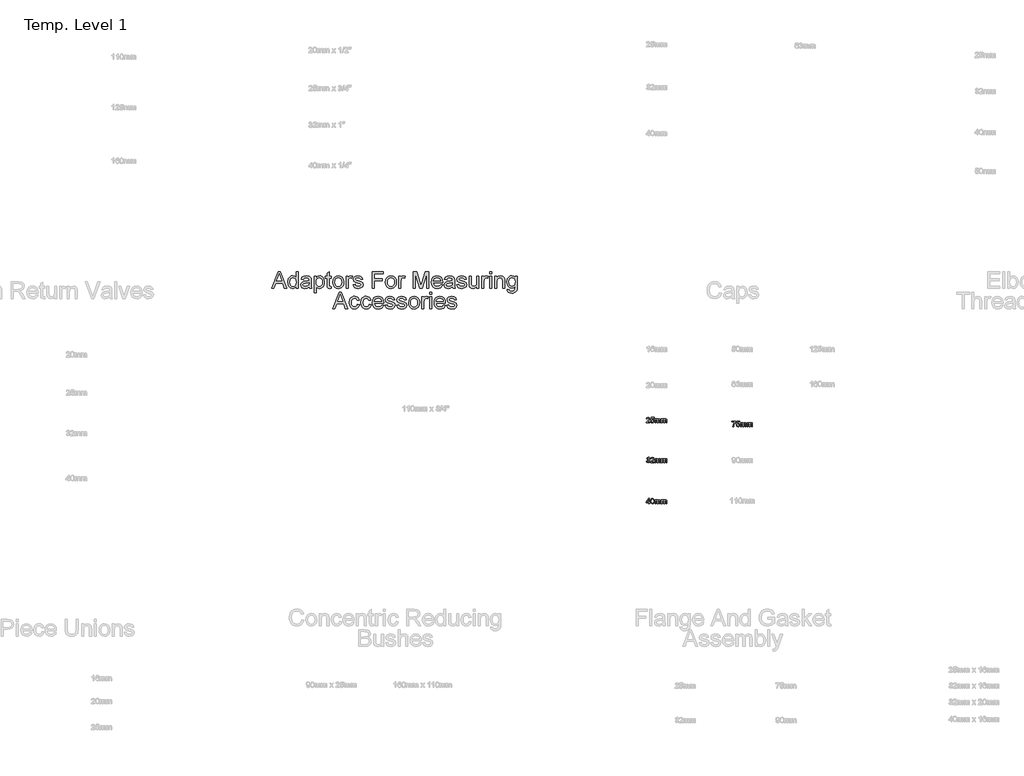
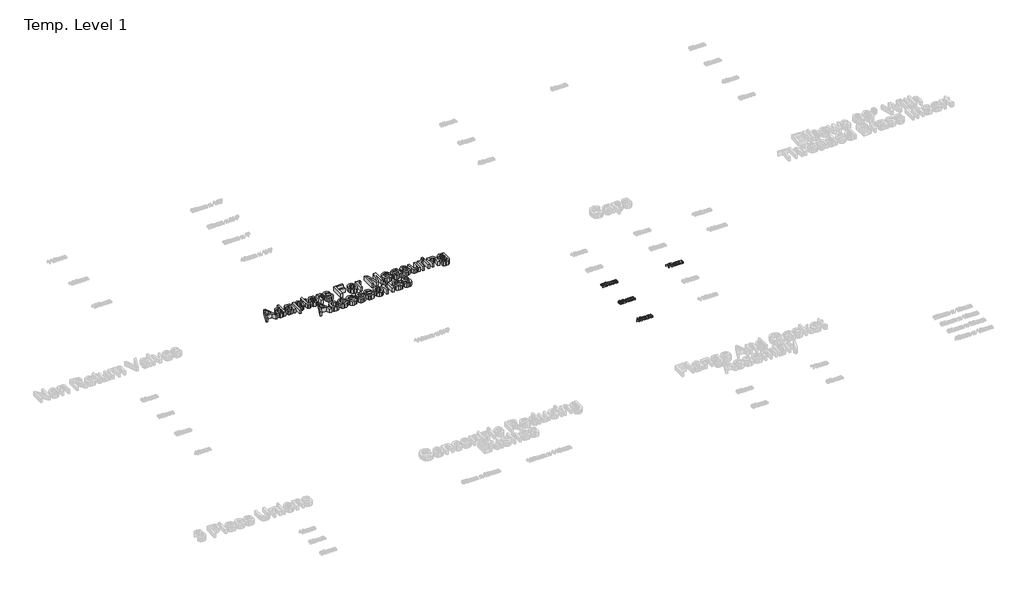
# One storey, part 39 of 62: 5 proxies.
"""IFC4 building model written with IfcOpenShell, lengths in millimetres."""

from ifc_helpers import new_model, si_unit, origin, origin_with_axes, place, context, project, spatial, polyline, outline, extrude, element, save

model = new_model("IFC4")

# Units and contexts
model_context = context("Model", 3, world=origin())
ifc_project = project(units=[si_unit("LENGTHUNIT", "METRE", prefix="MILLI")], contexts=[model_context])

# Site, building, storey
site = spatial("IfcSite", under=ifc_project)
building = spatial("IfcBuilding", under=site)
storey = spatial("IfcBuildingStorey", under=building, Name="Temp. Level 1", Elevation=0.0)

# Proxies
placement = place(None, origin())
element("IfcBuildingElementProxy", 1, Name="150mm Arial", ObjectType="150mm Arial", at=placement, inside=storey, context=model_context, shape_type="SweptSolid", body=[
    extrude(outline(polyline([(17320.8411942, -979.0446709), (17379.7955212, -831.3523632), (17395.516675, -831.3523632), (17454.4710019, -979.0446709), (17434.9637904, -979.0446709), (17418.0527327, -932.8908247), (17357.2234058, -932.8908247), (17340.3484058, -979.0446709), (17320.8411942, -979.0446709)]), holes=[polyline([(17364.0022519, -914.4292862), (17411.3099442, -914.4292862), (17398.0046558, -878.1191901), (17387.6560981, -849.8139016), (17378.4613865, -874.9461132), (17364.0022519, -914.4292862)])]), origin_with_axes(), (0.0, 0.0, 1.0), 50.0),
    extrude(outline(polyline([(17538.8099442, -979.0446709), (17538.8099442, -961.6288055), (17526.595401, -976.4214737), (17509.7113865, -981.3523632), (17497.7762904, -979.5675074), (17486.8508096, -974.2129401), (17477.6020115, -965.6627598), (17470.6969635, -954.2910651), (17466.3970837, -940.5575915), (17464.9637904, -924.9220747), (17470.2462423, -895.5350555), (17476.8448, -883.8794064), (17486.0755692, -875.3066901), (17497.2399322, -870.0332526), (17509.6392712, -868.2754401), (17526.6585019, -873.3054882), (17538.8099442, -886.3764016), (17538.8099442, -831.3523632), (17557.2714827, -831.3523632), (17557.2714827, -979.0446709), (17538.8099442, -979.0446709)]), holes=[polyline([(17483.4253288, -924.8499593), (17485.5076606, -941.5491781), (17491.7546558, -953.4256805), (17500.8321798, -960.5245387), (17511.4060981, -962.8908247), (17521.9755091, -960.6327117), (17530.8231654, -953.8583728), (17536.8132495, -942.441606), (17538.8099442, -926.2562093), (17536.7771918, -908.5608968), (17530.6789346, -896.292267), (17521.6059178, -889.1258007), (17510.6488865, -886.7369786), (17499.9667952, -889.0311492), (17491.2137904, -895.9136612), (17485.3724442, -907.7360771), (17483.4253288, -924.8499593)])]), origin_with_axes(), (0.0, 0.0, 1.0), 50.0),
    extrude(outline(polyline([(17654.1945596, -965.198517), (17636.2919154, -977.7105362), (17616.5142712, -981.3523632), (17601.0860861, -979.1618584), (17589.7053769, -972.5903439), (17582.6876486, -962.6113776), (17580.3484058, -950.198517), (17583.8820596, -935.5951516), (17593.1669154, -924.9941901), (17606.0935981, -918.9364978), (17622.0671558, -916.1600555), (17654.0863865, -909.8139016), (17654.1945596, -905.7033247), (17652.923526, -897.464142), (17649.110425, -892.073517), (17640.5827808, -888.0711132), (17628.7017712, -886.7369786), (17610.0238865, -890.2886612), (17601.1176365, -902.8908247), (17582.6560981, -900.5831324), (17590.6428769, -882.5542862), (17606.7246077, -871.9893824), (17631.0815788, -868.2754401), (17653.4553769, -871.5566901), (17666.0935981, -879.7958728), (17671.7546558, -892.3259209), (17672.6560981, -908.479767), (17672.6560981, -931.448517), (17673.5935981, -963.5218343), (17677.2714827, -979.0446709), (17658.8099442, -979.0446709), (17654.1945596, -965.198517)]), holes=[polyline([(17654.1945596, -928.2754401), (17624.4109058, -933.9364978), (17608.5274923, -936.9292862), (17601.3339827, -941.7970747), (17598.8099442, -948.9004401), (17604.3087423, -958.8884209), (17620.4445596, -962.8908247), (17639.1224442, -958.4737574), (17651.1657135, -947.7826516), (17654.0863865, -933.5038055), (17654.1945596, -928.2754401)])]), origin_with_axes(), (0.0, 0.0, 1.0), 50.0),
    extrude(outline(polyline([(17698.0407135, -1020.5831324), (17698.0407135, -870.5831324), (17716.5022519, -870.5831324), (17716.5022519, -888.6840939), (17729.266675, -873.3776036), (17746.5022519, -868.2754401), (17758.9872279, -870.0602959), (17769.9036942, -875.4148632), (17778.7919154, -884.0146228), (17785.1921558, -895.5350555), (17790.3484058, -923.9845747), (17788.8925764, -939.7733367), (17784.5250885, -953.8944305), (17777.3856654, -965.6312093), (17767.6140308, -974.2670266), (17756.2333216, -979.581029), (17744.266675, -981.3523632), (17728.2029731, -976.6107766), (17716.5022519, -964.6215939), (17716.5022519, -1020.5831324), (17698.0407135, -1020.5831324)]), holes=[polyline([(17716.5022519, -925.6792862), (17718.4989466, -942.229767), (17724.4890308, -953.8042862), (17733.3276726, -960.6191901), (17743.8700404, -962.8908247), (17754.5836822, -960.5380603), (17763.6476846, -953.479767), (17769.8270716, -941.4815699), (17771.8868673, -924.3090939), (17769.876651, -907.8487574), (17763.8460019, -896.1119786), (17755.0208817, -889.0807286), (17744.6272519, -886.7369786), (17734.1930572, -889.2294665), (17725.0298962, -896.7069305), (17718.634163, -908.9349954), (17716.5022519, -925.6792862)])]), origin_with_axes(), (0.0, 0.0, 1.0), 50.0),
    extrude(outline(polyline([(17850.3484058, -963.6480362), (17852.6560981, -979.5855362), (17838.8460019, -981.3523632), (17823.3772519, -978.2874593), (17815.6609058, -970.2465939), (17813.4253288, -949.2970747), (17813.4253288, -889.0446709), (17799.579175, -889.0446709), (17799.579175, -870.5831324), (17813.4253288, -870.5831324), (17813.4253288, -844.2249593), (17831.8868673, -833.3715939), (17831.8868673, -870.5831324), (17850.3484058, -870.5831324), (17850.3484058, -889.0446709), (17831.8868673, -889.0446709), (17831.8868673, -948.7562093), (17832.860425, -958.2754401), (17836.0154731, -961.6468343), (17842.3075404, -962.8908247), (17850.3484058, -963.6480362)])), origin_with_axes(), (0.0, 0.0, 1.0), 50.0),
    extrude(outline(polyline([(17864.1945596, -924.8139016), (17868.187949, -898.6630603), (17880.1681173, -880.2826516), (17894.9698, -871.277243), (17912.6921558, -868.2754401), (17932.086687, -871.9307887), (17947.5779731, -882.8968343), (17957.7327207, -900.3081925), (17961.1176365, -923.2994786), (17959.6212423, -941.9503199), (17955.1320596, -956.1480362), (17947.7807976, -966.7805483), (17937.6981654, -974.7357766), (17925.7225043, -979.6982165), (17912.6921558, -981.3523632), (17893.0632495, -977.7105362), (17877.5899923, -966.7850555), (17867.5434178, -949.0086132), (17864.1945596, -924.8139016)]), holes=[polyline([(17882.6560981, -924.7778439), (17884.7925163, -941.4860771), (17891.2017712, -953.3896228), (17900.8472038, -960.5155242), (17912.6921558, -962.8908247), (17924.4830212, -960.5020026), (17934.110425, -953.3355362), (17940.5196798, -941.2742382), (17942.6560981, -924.2009209), (17940.5061582, -907.9794665), (17934.0563385, -896.2381805), (17924.415413, -889.112279), (17912.6921558, -886.7369786), (17900.8472038, -889.1032646), (17891.2017712, -896.2021228), (17884.7925163, -908.0786252), (17882.6560981, -924.7778439)])]), origin_with_axes(), (0.0, 0.0, 1.0), 50.0),
    extrude(outline(polyline([(17981.8868673, -979.0446709), (17981.8868673, -870.5831324), (17998.0407135, -870.5831324), (17998.0407135, -886.6288055), (18009.5070596, -871.8451516), (18021.0455212, -868.2754401), (18039.579175, -873.9725555), (18033.4133096, -890.5230362), (18020.4325404, -886.7369786), (18009.9938385, -890.3788055), (18003.3411942, -900.4749593), (18000.3484058, -922.0374593), (18000.3484058, -979.0446709), (17981.8868673, -979.0446709)])), origin_with_axes(), (0.0, 0.0, 1.0), 50.0),
    extrude(outline(polyline([(18044.1945596, -946.7369786), (18062.6560981, -944.4292862), (18065.5677567, -952.3259209), (18071.2017712, -958.1312093), (18090.7810981, -962.8908247), (18109.6032135, -958.5278439), (18115.7330212, -948.2874593), (18109.5671558, -939.9941901), (18090.5647519, -934.729767), (18062.7642712, -925.6973151), (18050.6308577, -915.1504401), (18046.5022519, -900.2586132), (18049.8195596, -886.5026036), (18058.8700404, -875.9917862), (18070.6068192, -870.5290459), (18086.4902327, -868.2754401), (18108.954175, -871.8992382), (18123.2330212, -881.7069305), (18129.579175, -898.2754401), (18111.1176365, -900.5831324), (18104.1765308, -890.3968343), (18087.9325404, -886.7369786), (18070.2642712, -890.2345747), (18064.9637904, -898.3836132), (18067.1633096, -903.7562093), (18074.0503288, -907.8307286), (18089.9517712, -911.761017), (18117.0491269, -920.4509209), (18129.6332615, -930.2946709), (18134.1945596, -946.3403439), (18128.8399923, -964.0086132), (18113.3892712, -976.8271228), (18090.5286942, -981.3523632), (18071.9139106, -979.1708728), (18058.329175, -972.6264016), (18049.2606654, -961.7910651), (18044.1945596, -946.7369786)])), origin_with_axes(), (0.0, 0.0, 1.0), 50.0),
    extrude(outline(polyline([(18214.9637904, -979.0446709), (18214.9637904, -831.3523632), (18314.1945596, -831.3523632), (18314.1945596, -849.8139016), (18233.4253288, -849.8139016), (18233.4253288, -893.6600555), (18302.6560981, -893.6600555), (18302.6560981, -912.1215939), (18233.4253288, -912.1215939), (18233.4253288, -979.0446709), (18214.9637904, -979.0446709)])), origin_with_axes(), (0.0, 0.0, 1.0), 50.0),
    extrude(outline(polyline([(18332.6560981, -924.8139016), (18336.6494875, -898.6630603), (18348.6296558, -880.2826516), (18363.4313385, -871.277243), (18381.1536942, -868.2754401), (18400.5482255, -871.9307887), (18416.0395115, -882.8968343), (18426.1942591, -900.3081925), (18429.579175, -923.2994786), (18428.0827808, -941.9503199), (18423.5935981, -956.1480362), (18416.2423361, -966.7805483), (18406.1597038, -974.7357766), (18394.1840428, -979.6982165), (18381.1536942, -981.3523632), (18361.524788, -977.7105362), (18346.0515308, -966.7850555), (18336.0049563, -949.0086132), (18332.6560981, -924.8139016)]), holes=[polyline([(18351.1176365, -924.7778439), (18353.2540548, -941.4860771), (18359.6633096, -953.3896228), (18369.3087423, -960.5155242), (18381.1536942, -962.8908247), (18392.9445596, -960.5020026), (18402.5719635, -953.3355362), (18408.9812183, -941.2742382), (18411.1176365, -924.2009209), (18408.9676966, -907.9794665), (18402.5178769, -896.2381805), (18392.8769514, -889.112279), (18381.1536942, -886.7369786), (18369.3087423, -889.1032646), (18359.6633096, -896.2021228), (18353.2540548, -908.0786252), (18351.1176365, -924.7778439)])]), origin_with_axes(), (0.0, 0.0, 1.0), 50.0),
    extrude(outline(polyline([(18450.3484058, -979.0446709), (18450.3484058, -870.5831324), (18466.5022519, -870.5831324), (18466.5022519, -886.6288055), (18477.9685981, -871.8451516), (18489.5070596, -868.2754401), (18508.0407135, -873.9725555), (18501.8748481, -890.5230362), (18488.8940788, -886.7369786), (18478.4553769, -890.3788055), (18471.8027327, -900.4749593), (18468.8099442, -922.0374593), (18468.8099442, -979.0446709), (18450.3484058, -979.0446709)])), origin_with_axes(), (0.0, 0.0, 1.0), 50.0),
    extrude(outline(polyline([(18579.579175, -979.0446709), (18579.579175, -831.3523632), (18611.3460019, -831.3523632), (18641.5623481, -935.4509209), (18647.6560981, -957.1937093), (18654.2546558, -933.6480362), (18683.9661942, -831.3523632), (18715.7330212, -831.3523632), (18715.7330212, -979.0446709), (18697.2714827, -979.0446709), (18697.2714827, -849.8139016), (18660.1681173, -979.0446709), (18635.1440788, -979.0446709), (18598.0407135, -849.8139016), (18598.0407135, -979.0446709), (18579.579175, -979.0446709)])), origin_with_axes(), (0.0, 0.0, 1.0), 50.0),
    extrude(outline(polyline([(18821.6705212, -946.7369786), (18839.7714827, -949.0446709), (18833.2495476, -962.683493), (18822.8423962, -972.8788055), (18808.7844034, -979.2339737), (18791.3099442, -981.3523632), (18769.6482856, -977.6970146), (18752.9806173, -966.7309689), (18742.3526125, -949.1663656), (18738.8099442, -925.7153439), (18742.3886702, -901.4755603), (18753.1248481, -883.3475555), (18769.5671558, -872.0434689), (18790.2642712, -868.2754401), (18810.3168553, -872.0344545), (18826.3399923, -883.3114978), (18836.8463024, -901.4034449), (18840.3484058, -925.6071709), (18840.2402327, -930.5831324), (18757.2714827, -930.5831324), (18760.4670957, -944.402243), (18767.8904731, -954.5614978), (18778.6041149, -960.808493), (18791.6705212, -962.8908247), (18809.7714827, -959.0326516), (18821.6705212, -946.7369786)]), holes=[polyline([(18757.2714827, -912.1215939), (18821.8868673, -912.1215939), (18819.3898721, -902.3679882), (18814.4950404, -895.3908247), (18803.7318192, -888.9004401), (18790.1921558, -886.7369786), (18777.7477447, -888.4632406), (18767.4577808, -893.6420266), (18760.3048361, -901.7144425), (18757.2714827, -912.1215939)])]), origin_with_axes(), (0.0, 0.0, 1.0), 50.0),
    extrude(outline(polyline([(18928.0407135, -965.198517), (18910.1380692, -977.7105362), (18890.360425, -981.3523632), (18874.9322399, -979.1618584), (18863.5515308, -972.5903439), (18856.5338024, -962.6113776), (18854.1945596, -950.198517), (18857.7282135, -935.5951516), (18867.0130692, -924.9941901), (18879.9397519, -918.9364978), (18895.9133096, -916.1600555), (18927.9325404, -909.8139016), (18928.0407135, -905.7033247), (18926.7696798, -897.464142), (18922.9565788, -892.073517), (18914.4289346, -888.0711132), (18902.547925, -886.7369786), (18883.8700404, -890.2886612), (18874.9637904, -902.8908247), (18856.5022519, -900.5831324), (18864.4890308, -882.5542862), (18880.5707615, -871.9893824), (18904.9277327, -868.2754401), (18927.3015308, -871.5566901), (18939.9397519, -879.7958728), (18945.6008096, -892.3259209), (18946.5022519, -908.479767), (18946.5022519, -931.448517), (18947.4397519, -963.5218343), (18951.1176365, -979.0446709), (18932.6560981, -979.0446709), (18928.0407135, -965.198517)]), holes=[polyline([(18928.0407135, -928.2754401), (18898.2570596, -933.9364978), (18882.3736462, -936.9292862), (18875.1801365, -941.7970747), (18872.6560981, -948.9004401), (18878.1548962, -958.8884209), (18894.2907135, -962.8908247), (18912.9685981, -958.4737574), (18925.0118673, -947.7826516), (18927.9325404, -933.5038055), (18928.0407135, -928.2754401)])]), origin_with_axes(), (0.0, 0.0, 1.0), 50.0),
    extrude(outline(polyline([(18964.9637904, -946.7369786), (18983.4253288, -944.4292862), (18986.3369875, -952.3259209), (18991.9710019, -958.1312093), (19011.5503288, -962.8908247), (19030.3724442, -958.5278439), (19036.5022519, -948.2874593), (19030.3363865, -939.9941901), (19011.3339827, -934.729767), (18983.5335019, -925.6973151), (18971.4000885, -915.1504401), (18967.2714827, -900.2586132), (18970.5887904, -886.5026036), (18979.6392712, -875.9917862), (18991.37605, -870.5290459), (19007.2594635, -868.2754401), (19029.7234058, -871.8992382), (19044.0022519, -881.7069305), (19050.3484058, -898.2754401), (19031.8868673, -900.5831324), (19024.9457615, -890.3968343), (19008.7017712, -886.7369786), (18991.0335019, -890.2345747), (18985.7330212, -898.3836132), (18987.9325404, -903.7562093), (18994.8195596, -907.8307286), (19010.7210019, -911.761017), (19037.8183577, -920.4509209), (19050.4024923, -930.2946709), (19054.9637904, -946.3403439), (19049.6092231, -964.0086132), (19034.1585019, -976.8271228), (19011.297925, -981.3523632), (18992.6831413, -979.1708728), (18979.0984058, -972.6264016), (18970.0298962, -961.7910651), (18964.9637904, -946.7369786)])), origin_with_axes(), (0.0, 0.0, 1.0), 50.0),
    extrude(outline(polyline([(19144.9637904, -979.0446709), (19144.9637904, -960.4028439), (19130.5046558, -976.1149834), (19111.6464827, -981.3523632), (19094.2847038, -977.6744786), (19082.31355, -968.4437093), (19076.8147519, -954.8499593), (19075.7330212, -937.6864978), (19075.7330212, -870.5831324), (19094.1945596, -870.5831324), (19094.1945596, -928.9965939), (19095.3123481, -947.8187093), (19102.6140308, -958.870392), (19116.3700404, -962.8908247), (19131.7847038, -958.7802478), (19141.9710019, -947.5843343), (19144.9637904, -927.0134209), (19144.9637904, -870.5831324), (19163.4253288, -870.5831324), (19163.4253288, -979.0446709), (19144.9637904, -979.0446709)])), origin_with_axes(), (0.0, 0.0, 1.0), 50.0),
    extrude(outline(polyline([(19188.8099442, -979.0446709), (19188.8099442, -870.5831324), (19204.9637904, -870.5831324), (19204.9637904, -886.6288055), (19216.4301365, -871.8451516), (19227.9685981, -868.2754401), (19246.5022519, -873.9725555), (19240.3363865, -890.5230362), (19227.3556173, -886.7369786), (19216.9169154, -890.3788055), (19210.2642712, -900.4749593), (19207.2714827, -922.0374593), (19207.2714827, -979.0446709), (19188.8099442, -979.0446709)])), origin_with_axes(), (0.0, 0.0, 1.0), 50.0),
    extrude(outline(polyline([(19258.0407135, -849.8139016), (19258.0407135, -831.3523632), (19276.5022519, -831.3523632), (19276.5022519, -849.8139016), (19258.0407135, -849.8139016)])), origin_with_axes(), (0.0, 0.0, 1.0), 50.0),
    extrude(outline(polyline([(19258.0407135, -979.0446709), (19258.0407135, -870.5831324), (19276.5022519, -870.5831324), (19276.5022519, -979.0446709), (19258.0407135, -979.0446709)])), origin_with_axes(), (0.0, 0.0, 1.0), 50.0),
    extrude(outline(polyline([(19304.1945596, -979.0446709), (19304.1945596, -870.5831324), (19322.6560981, -870.5831324), (19322.6560981, -885.7273632), (19336.7726846, -872.6384209), (19356.0455212, -868.2754401), (19373.4794154, -871.7910651), (19385.3784538, -881.0218343), (19390.9133096, -894.5975555), (19391.8868673, -912.4461132), (19391.8868673, -979.0446709), (19373.4253288, -979.0446709), (19373.4253288, -914.9340939), (19371.297925, -898.5999593), (19363.7798962, -889.964142), (19351.1056173, -886.7369786), (19340.2928168, -888.5488776), (19331.0755692, -893.9845747), (19324.7609659, -904.4863776), (19322.6560981, -921.4965939), (19322.6560981, -979.0446709), (19304.1945596, -979.0446709)])), origin_with_axes(), (0.0, 0.0, 1.0), 50.0),
    extrude(outline(polyline([(19412.6560981, -988.2754401), (19431.1176365, -990.5831324), (19437.1032135, -1000.3187093), (19455.0238865, -1004.4292862), (19473.9181173, -999.7778439), (19482.9325404, -986.7249593), (19484.1945596, -965.198517), (19471.1957615, -975.5831324), (19455.3484058, -979.0446709), (19436.3144514, -975.0152237), (19422.1212423, -962.9268824), (19413.2916149, -945.2045266), (19410.3484058, -924.2730362), (19415.6308577, -895.6612574), (19422.094199, -884.0461733), (19430.9193192, -875.4148632), (19441.8042351, -870.0602959), (19454.4469635, -868.2754401), (19470.9163144, -872.3139016), (19484.1945596, -884.4292862), (19484.1945596, -870.5831324), (19502.6560981, -870.5831324), (19502.6560981, -964.2249593), (19501.3940788, -985.8460531), (19497.6080212, -1000.0843343), (19491.0860861, -1009.5269425), (19481.6164346, -1016.761017), (19469.4063986, -1021.3583728), (19454.6633096, -1022.8908247), (19437.4863264, -1020.7318704), (19423.9601846, -1014.2550074), (19415.2838024, -1003.4422069), (19412.6560981, -988.2754401)]), holes=[polyline([(19428.8099442, -923.011017), (19430.7795957, -939.9446108), (19436.68855, -951.5867382), (19445.5722639, -958.3340338), (19456.4661942, -960.5831324), (19467.2789947, -958.3475555), (19476.2077808, -951.6408247), (19482.1978649, -940.1474353), (19484.1945596, -923.5518824), (19482.1392712, -907.5467742), (19475.9734058, -896.0218343), (19466.9139106, -889.0581925), (19456.1777327, -886.7369786), (19445.6353649, -889.0221348), (19436.7967231, -895.8776036), (19430.8066389, -907.2312694), (19428.8099442, -923.011017)])]), origin_with_axes(), (0.0, 0.0, 1.0), 50.0),
    extrude(outline(polyline([(17863.1488865, -1161.3523632), (17922.1032135, -1013.6600555), (17937.8243673, -1013.6600555), (17996.7786942, -1161.3523632), (17977.2714827, -1161.3523632), (17960.360425, -1115.198517), (17899.5310981, -1115.198517), (17882.6560981, -1161.3523632), (17863.1488865, -1161.3523632)]), holes=[polyline([(17906.3099442, -1096.7369786), (17953.6176365, -1096.7369786), (17940.3123481, -1060.4268824), (17929.9637904, -1032.1215939), (17920.7690788, -1057.2538055), (17906.3099442, -1096.7369786)])]), origin_with_axes(), (0.0, 0.0, 1.0), 50.0),
    extrude(outline(polyline([(18083.4253288, -1122.1215939), (18101.8868673, -1124.4292862), (18096.7396317, -1140.8490579), (18087.0671558, -1153.2574112), (18073.7798962, -1161.0593944), (18057.7883096, -1163.6600555), (18038.1503889, -1160.0317502), (18022.7943192, -1149.1468343), (18012.8829611, -1131.4830723), (18009.579175, -1107.5182286), (18015.2222038, -1076.8511612), (18022.3435981, -1065.3532646), (18032.4217231, -1057.1456324), (18044.4785139, -1052.2237574), (18057.5359058, -1050.5831324), (18073.1353649, -1052.8367382), (18085.6068192, -1059.5975555), (18094.5536341, -1070.5050074), (18099.579175, -1085.198517), (18081.1176365, -1087.5062093), (18072.5539346, -1073.6780843), (18057.6801365, -1069.0446709), (18045.7495476, -1071.3253199), (18036.2798962, -1078.167267), (18030.1005091, -1089.9401036), (18028.0407135, -1107.0134209), (18030.055437, -1124.316606), (18036.0996077, -1136.1300074), (18045.3979851, -1142.9313896), (18057.1753288, -1145.198517), (18066.7351245, -1143.7832526), (18074.5731654, -1139.5374593), (18080.274788, -1132.3529641), (18083.4253288, -1122.1215939)])), origin_with_axes(), (0.0, 0.0, 1.0), 50.0),
    extrude(outline(polyline([(18187.2714827, -1122.1215939), (18205.7330212, -1124.4292862), (18200.5857856, -1140.8490579), (18190.9133096, -1153.2574112), (18177.62605, -1161.0593944), (18161.6344635, -1163.6600555), (18141.9965428, -1160.0317502), (18126.6404731, -1149.1468343), (18116.7291149, -1131.4830723), (18113.4253288, -1107.5182286), (18119.0683577, -1076.8511612), (18126.1897519, -1065.3532646), (18136.2678769, -1057.1456324), (18148.3246678, -1052.2237574), (18161.3820596, -1050.5831324), (18176.9815188, -1052.8367382), (18189.4529731, -1059.5975555), (18198.399788, -1070.5050074), (18203.4253288, -1085.198517), (18184.9637904, -1087.5062093), (18176.4000885, -1073.6780843), (18161.5262904, -1069.0446709), (18149.5957014, -1071.3253199), (18140.12605, -1078.167267), (18133.946663, -1089.9401036), (18131.8868673, -1107.0134209), (18133.9015909, -1124.316606), (18139.9457615, -1136.1300074), (18149.2441389, -1142.9313896), (18161.0214827, -1145.198517), (18170.5812784, -1143.7832526), (18178.4193192, -1139.5374593), (18184.1209418, -1132.3529641), (18187.2714827, -1122.1215939)])), origin_with_axes(), (0.0, 0.0, 1.0), 50.0),
    extrude(outline(polyline([(18297.8243673, -1129.0446709), (18315.9253288, -1131.3523632), (18309.4033938, -1144.9911853), (18298.9962423, -1155.1864978), (18284.9382495, -1161.5416661), (18267.4637904, -1163.6600555), (18245.8021317, -1160.0047069), (18229.1344635, -1149.0386612), (18218.5064587, -1131.4740579), (18214.9637904, -1108.0230362), (18218.5425163, -1083.7832526), (18229.2786942, -1065.6552478), (18245.7210019, -1054.3511612), (18266.4181173, -1050.5831324), (18286.4707014, -1054.3421468), (18302.4938385, -1065.6191901), (18313.0001486, -1083.7111372), (18316.5022519, -1107.9148632), (18316.3940788, -1112.8908247), (18233.4253288, -1112.8908247), (18236.6209418, -1126.7099353), (18244.0443192, -1136.8691901), (18254.7579611, -1143.1161853), (18267.8243673, -1145.198517), (18285.9253288, -1141.3403439), (18297.8243673, -1129.0446709)]), holes=[polyline([(18233.4253288, -1094.4292862), (18298.0407135, -1094.4292862), (18295.5437183, -1084.6756805), (18290.6488865, -1077.698517), (18279.8856654, -1071.2081324), (18266.3460019, -1069.0446709), (18253.9015909, -1070.7709329), (18243.6116269, -1075.9497189), (18236.4586822, -1084.0221348), (18233.4253288, -1094.4292862)])]), origin_with_axes(), (0.0, 0.0, 1.0), 50.0),
    extrude(outline(polyline([(18328.0407135, -1129.0446709), (18346.5022519, -1126.7369786), (18349.4139106, -1134.6336132), (18355.047925, -1140.4389016), (18374.6272519, -1145.198517), (18393.4493673, -1140.8355362), (18399.579175, -1130.5951516), (18393.4133096, -1122.3018824), (18374.4109058, -1117.0374593), (18346.610425, -1108.0050074), (18334.4770115, -1097.4581324), (18330.3484058, -1082.5663055), (18333.6657135, -1068.8102959), (18342.7161942, -1058.2994786), (18354.4529731, -1052.8367382), (18370.3363865, -1050.5831324), (18392.8003288, -1054.2069305), (18407.079175, -1064.0146228), (18413.4253288, -1080.5831324), (18394.9637904, -1082.8908247), (18388.0226846, -1072.7045266), (18371.7786942, -1069.0446709), (18354.110425, -1072.542267), (18348.8099442, -1080.6913055), (18351.0094635, -1086.0639016), (18357.8964827, -1090.1384209), (18373.797925, -1094.0687093), (18400.8952808, -1102.7586132), (18413.4794154, -1112.6023632), (18418.0407135, -1128.6480362), (18412.6861462, -1146.3163055), (18397.235425, -1159.1348151), (18374.3748481, -1163.6600555), (18355.7600644, -1161.4785651), (18342.1753288, -1154.9340939), (18333.1068192, -1144.0987574), (18328.0407135, -1129.0446709)])), origin_with_axes(), (0.0, 0.0, 1.0), 50.0),
    extrude(outline(polyline([(18431.8868673, -1129.0446709), (18450.3484058, -1126.7369786), (18453.2600644, -1134.6336132), (18458.8940788, -1140.4389016), (18478.4734058, -1145.198517), (18497.2955212, -1140.8355362), (18503.4253288, -1130.5951516), (18497.2594635, -1122.3018824), (18478.2570596, -1117.0374593), (18450.4565788, -1108.0050074), (18438.3231654, -1097.4581324), (18434.1945596, -1082.5663055), (18437.5118673, -1068.8102959), (18446.5623481, -1058.2994786), (18458.2991269, -1052.8367382), (18474.1825404, -1050.5831324), (18496.6464827, -1054.2069305), (18510.9253288, -1064.0146228), (18517.2714827, -1080.5831324), (18498.8099442, -1082.8908247), (18491.8688385, -1072.7045266), (18475.6248481, -1069.0446709), (18457.9565788, -1072.542267), (18452.6560981, -1080.6913055), (18454.8556173, -1086.0639016), (18461.7426365, -1090.1384209), (18477.6440788, -1094.0687093), (18504.7414346, -1102.7586132), (18517.3255692, -1112.6023632), (18521.8868673, -1128.6480362), (18516.5323, -1146.3163055), (18501.0815788, -1159.1348151), (18478.2210019, -1163.6600555), (18459.6062183, -1161.4785651), (18446.0214827, -1154.9340939), (18436.9529731, -1144.0987574), (18431.8868673, -1129.0446709)])), origin_with_axes(), (0.0, 0.0, 1.0), 50.0),
    extrude(outline(polyline([(18538.0407135, -1107.1215939), (18542.0341029, -1080.9707526), (18554.0142712, -1062.5903439), (18568.8159538, -1053.5849353), (18586.5383096, -1050.5831324), (18605.9328409, -1054.238481), (18621.4241269, -1065.2045266), (18631.5788745, -1082.6158848), (18634.9637904, -1105.6071709), (18633.4673962, -1124.2580122), (18628.9782135, -1138.4557286), (18621.6269514, -1149.0882406), (18611.5443192, -1157.0434689), (18599.5686582, -1162.0059088), (18586.5383096, -1163.6600555), (18566.9094034, -1160.0182286), (18551.4361462, -1149.0927478), (18541.3895716, -1131.3163055), (18538.0407135, -1107.1215939)]), holes=[polyline([(18556.5022519, -1107.0855362), (18558.6386702, -1123.7937694), (18565.047925, -1135.6973151), (18574.6933577, -1142.8232165), (18586.5383096, -1145.198517), (18598.329175, -1142.8096949), (18607.9565788, -1135.6432286), (18614.3658337, -1123.5819305), (18616.5022519, -1106.5086132), (18614.352312, -1090.2871588), (18607.9024923, -1078.5458728), (18598.2615668, -1071.4199713), (18586.5383096, -1069.0446709), (18574.6933577, -1071.4109569), (18565.047925, -1078.5098151), (18558.6386702, -1090.3863175), (18556.5022519, -1107.0855362)])]), origin_with_axes(), (0.0, 0.0, 1.0), 50.0),
    extrude(outline(polyline([(18655.7330212, -1161.3523632), (18655.7330212, -1052.8908247), (18671.8868673, -1052.8908247), (18671.8868673, -1068.9364978), (18683.3532135, -1054.1528439), (18694.891675, -1050.5831324), (18713.4253288, -1056.2802478), (18707.2594635, -1072.8307286), (18694.2786942, -1069.0446709), (18683.8399923, -1072.6864978), (18677.1873481, -1082.7826516), (18674.1945596, -1104.3451516), (18674.1945596, -1161.3523632), (18655.7330212, -1161.3523632)])), origin_with_axes(), (0.0, 0.0, 1.0), 50.0),
    extrude(outline(polyline([(18724.9637904, -1161.3523632), (18724.9637904, -1052.8908247), (18743.4253288, -1052.8908247), (18743.4253288, -1161.3523632), (18724.9637904, -1161.3523632)])), origin_with_axes(), (0.0, 0.0, 1.0), 50.0),
    extrude(outline(polyline([(18724.9637904, -1032.1215939), (18724.9637904, -1013.6600555), (18743.4253288, -1013.6600555), (18743.4253288, -1032.1215939), (18724.9637904, -1032.1215939)])), origin_with_axes(), (0.0, 0.0, 1.0), 50.0),
    extrude(outline(polyline([(18847.0551365, -1129.0446709), (18865.1560981, -1131.3523632), (18858.634163, -1144.9911853), (18848.2270115, -1155.1864978), (18834.1690188, -1161.5416661), (18816.6945596, -1163.6600555), (18795.032901, -1160.0047069), (18778.3652327, -1149.0386612), (18767.7372279, -1131.4740579), (18764.1945596, -1108.0230362), (18767.7732856, -1083.7832526), (18778.5094635, -1065.6552478), (18794.9517712, -1054.3511612), (18815.6488865, -1050.5831324), (18835.7014707, -1054.3421468), (18851.7246077, -1065.6191901), (18862.2309178, -1083.7111372), (18865.7330212, -1107.9148632), (18865.6248481, -1112.8908247), (18782.6560981, -1112.8908247), (18785.8517111, -1126.7099353), (18793.2750885, -1136.8691901), (18803.9887303, -1143.1161853), (18817.0551365, -1145.198517), (18835.1560981, -1141.3403439), (18847.0551365, -1129.0446709)]), holes=[polyline([(18782.6560981, -1094.4292862), (18847.2714827, -1094.4292862), (18844.7744875, -1084.6756805), (18839.8796558, -1077.698517), (18829.1164346, -1071.2081324), (18815.5767712, -1069.0446709), (18803.1323601, -1070.7709329), (18792.8423962, -1075.9497189), (18785.6894514, -1084.0221348), (18782.6560981, -1094.4292862)])]), origin_with_axes(), (0.0, 0.0, 1.0), 50.0),
    extrude(outline(polyline([(18877.2714827, -1129.0446709), (18895.7330212, -1126.7369786), (18898.6446798, -1134.6336132), (18904.2786942, -1140.4389016), (18923.8580212, -1145.198517), (18942.6801365, -1140.8355362), (18948.8099442, -1130.5951516), (18942.6440788, -1122.3018824), (18923.641675, -1117.0374593), (18895.8411942, -1108.0050074), (18883.7077808, -1097.4581324), (18879.579175, -1082.5663055), (18882.8964827, -1068.8102959), (18891.9469635, -1058.2994786), (18903.6837423, -1052.8367382), (18919.5671558, -1050.5831324), (18942.0310981, -1054.2069305), (18956.3099442, -1064.0146228), (18962.6560981, -1080.5831324), (18944.1945596, -1082.8908247), (18937.2534538, -1072.7045266), (18921.0094635, -1069.0446709), (18903.3411942, -1072.542267), (18898.0407135, -1080.6913055), (18900.2402327, -1086.0639016), (18907.1272519, -1090.1384209), (18923.0286942, -1094.0687093), (18950.12605, -1102.7586132), (18962.7101846, -1112.6023632), (18967.2714827, -1128.6480362), (18961.9169154, -1146.3163055), (18946.4661942, -1159.1348151), (18923.6056173, -1163.6600555), (18904.9908337, -1161.4785651), (18891.4060981, -1154.9340939), (18882.3375885, -1144.0987574), (18877.2714827, -1129.0446709)])), origin_with_axes(), (0.0, 0.0, 1.0), 50.0),
])
element("IfcBuildingElementProxy", 2, Name="50mm Arial", ObjectType="50mm Arial", at=placement, inside=storey, context=model_context, shape_type="SweptSolid", body=[
    extrude(outline(polyline([(20682.7745802, -2169.0446709), (20682.7745802, -2175.198517), (20650.4668879, -2175.198517), (20651.1279456, -2170.9557286), (20654.8659263, -2164.4232766), (20662.5702533, -2157.2898632), (20673.1952533, -2147.0374593), (20675.8515033, -2140.0663055), (20673.3454936, -2134.4232766), (20666.8010225, -2132.1215939), (20659.980109, -2134.3691901), (20657.3899648, -2140.5831324), (20651.2361186, -2139.8139016), (20655.9536667, -2129.5134209), (20666.933234, -2125.9677478), (20677.948859, -2129.9100555), (20682.0053494, -2139.6937093), (20680.9115994, -2145.5290459), (20677.2757821, -2151.5626997), (20668.4596763, -2159.9941901), (20661.3803494, -2165.9136612), (20658.6039071, -2169.0446709), (20682.7745802, -2169.0446709)])), origin_with_axes(), (0.0, 0.0, 1.0), 15.0),
    extrude(outline(polyline([(20688.9284263, -2162.1215939), (20695.0822725, -2161.3523632), (20698.183234, -2167.6925074), (20704.6135225, -2169.8139016), (20712.3298686, -2166.8631805), (20715.0822725, -2159.0326516), (20712.5041475, -2151.7249593), (20704.7096763, -2149.0446709), (20699.3070321, -2150.1143824), (20695.8515033, -2152.8908247), (20689.6976571, -2152.1215939), (20695.0822725, -2126.7369786), (20718.9284263, -2126.7369786), (20718.9284263, -2132.8908247), (20700.058234, -2132.8908247), (20697.4260225, -2146.448517), (20706.4284263, -2142.8908247), (20716.9512629, -2147.3018824), (20721.2361186, -2158.6480362), (20717.3779456, -2170.0663055), (20711.8370802, -2174.4923872), (20704.589484, -2175.9677478), (20693.730109, -2172.1756805), (20688.9284263, -2162.1215939)])), origin_with_axes(), (0.0, 0.0, 1.0), 15.0),
    extrude(outline(polyline([(20728.1591956, -2175.198517), (20728.1591956, -2139.0446709), (20734.3130417, -2139.0446709), (20734.3130417, -2144.9941901), (20738.5438109, -2140.120392), (20744.5654456, -2138.2754401), (20750.7313109, -2140.1564497), (20754.120734, -2145.4268824), (20758.9224167, -2140.0633007), (20764.9861186, -2138.2754401), (20773.0329936, -2141.2501997), (20775.8515033, -2150.4148632), (20775.8515033, -2175.198517), (20769.6976571, -2175.198517), (20769.6976571, -2153.0590939), (20769.1267436, -2147.9208728), (20767.0594359, -2145.3908247), (20763.5438109, -2144.4292862), (20757.4921283, -2146.8932286), (20755.0822725, -2154.7898632), (20755.0822725, -2175.198517), (20748.9284263, -2175.198517), (20748.9284263, -2152.3739978), (20747.5041475, -2146.4124593), (20742.8346763, -2144.4292862), (20738.2793879, -2145.7514016), (20735.2505417, -2149.6215939), (20734.3130417, -2156.9653439), (20734.3130417, -2175.198517), (20728.1591956, -2175.198517)])), origin_with_axes(), (0.0, 0.0, 1.0), 15.0),
    extrude(outline(polyline([(20785.0822725, -2175.198517), (20785.0822725, -2139.0446709), (20791.2361186, -2139.0446709), (20791.2361186, -2144.9941901), (20795.4668879, -2140.120392), (20801.4885225, -2138.2754401), (20807.6543879, -2140.1564497), (20811.0438109, -2145.4268824), (20815.8454936, -2140.0633007), (20821.9091956, -2138.2754401), (20829.9560706, -2141.2501997), (20832.7745802, -2150.4148632), (20832.7745802, -2175.198517), (20826.620734, -2175.198517), (20826.620734, -2153.0590939), (20826.0498206, -2147.9208728), (20823.9825129, -2145.3908247), (20820.4668879, -2144.4292862), (20814.4152052, -2146.8932286), (20812.0053494, -2154.7898632), (20812.0053494, -2175.198517), (20805.8515033, -2175.198517), (20805.8515033, -2152.3739978), (20804.4272244, -2146.4124593), (20799.7577533, -2144.4292862), (20795.2024648, -2145.7514016), (20792.1736186, -2149.6215939), (20791.2361186, -2156.9653439), (20791.2361186, -2175.198517), (20785.0822725, -2175.198517)])), origin_with_axes(), (0.0, 0.0, 1.0), 15.0),
])
element("IfcBuildingElementProxy", 3, Name="50mm Arial", ObjectType="50mm Arial", at=placement, inside=storey, context=model_context, shape_type="SweptSolid", body=[
    extrude(outline(polyline([(20651.2361186, -2517.1215939), (20657.3899648, -2516.3523632), (20660.7853975, -2522.8307286), (20667.1375609, -2524.8139016), (20674.6135225, -2522.0855362), (20677.3899648, -2515.3307286), (20674.6375609, -2508.9665459), (20667.6423686, -2506.448517), (20663.3274648, -2507.1215939), (20664.0125609, -2500.9677478), (20671.9813109, -2499.2730362), (20675.0822725, -2493.8403439), (20672.8346763, -2489.026642), (20667.0414071, -2487.1215939), (20661.1760225, -2489.0446709), (20658.1591956, -2494.8139016), (20652.0053494, -2494.0446709), (20657.0414071, -2484.3932286), (20666.8250609, -2480.9677478), (20674.2469359, -2482.6564497), (20679.4392436, -2487.2718343), (20681.2361186, -2493.479767), (20679.5293879, -2499.1528439), (20674.4813109, -2503.2273632), (20681.1880417, -2507.4340939), (20683.5438109, -2515.4389016), (20678.8322725, -2526.448517), (20666.9212148, -2530.9677478), (20656.1279456, -2527.1095747), (20651.2361186, -2517.1215939)])), origin_with_axes(), (0.0, 0.0, 1.0), 15.0),
    extrude(outline(polyline([(20720.4668879, -2524.0446709), (20720.4668879, -2530.198517), (20688.1591956, -2530.198517), (20688.8202533, -2525.9557286), (20692.558234, -2519.4232766), (20700.2625609, -2512.2898632), (20710.8875609, -2502.0374593), (20713.5438109, -2495.0663055), (20711.0378013, -2489.4232766), (20704.4933302, -2487.1215939), (20697.6724167, -2489.3691901), (20695.0822725, -2495.5831324), (20688.9284263, -2494.8139016), (20693.6459744, -2484.5134209), (20704.6255417, -2480.9677478), (20715.6411667, -2484.9100555), (20719.6976571, -2494.6937093), (20718.6039071, -2500.5290459), (20714.9680898, -2506.5626997), (20706.151984, -2514.9941901), (20699.0726571, -2520.9136612), (20696.2962148, -2524.0446709), (20720.4668879, -2524.0446709)])), origin_with_axes(), (0.0, 0.0, 1.0), 15.0),
    extrude(outline(polyline([(20728.1591956, -2530.198517), (20728.1591956, -2494.0446709), (20734.3130417, -2494.0446709), (20734.3130417, -2499.9941901), (20738.5438109, -2495.120392), (20744.5654456, -2493.2754401), (20750.7313109, -2495.1564497), (20754.120734, -2500.4268824), (20758.9224167, -2495.0633007), (20764.9861186, -2493.2754401), (20773.0329936, -2496.2501997), (20775.8515033, -2505.4148632), (20775.8515033, -2530.198517), (20769.6976571, -2530.198517), (20769.6976571, -2508.0590939), (20769.1267436, -2502.9208728), (20767.0594359, -2500.3908247), (20763.5438109, -2499.4292862), (20757.4921283, -2501.8932286), (20755.0822725, -2509.7898632), (20755.0822725, -2530.198517), (20748.9284263, -2530.198517), (20748.9284263, -2507.3739978), (20747.5041475, -2501.4124593), (20742.8346763, -2499.4292862), (20738.2793879, -2500.7514016), (20735.2505417, -2504.6215939), (20734.3130417, -2511.9653439), (20734.3130417, -2530.198517), (20728.1591956, -2530.198517)])), origin_with_axes(), (0.0, 0.0, 1.0), 15.0),
    extrude(outline(polyline([(20785.0822725, -2530.198517), (20785.0822725, -2494.0446709), (20791.2361186, -2494.0446709), (20791.2361186, -2499.9941901), (20795.4668879, -2495.120392), (20801.4885225, -2493.2754401), (20807.6543879, -2495.1564497), (20811.0438109, -2500.4268824), (20815.8454936, -2495.0633007), (20821.9091956, -2493.2754401), (20829.9560706, -2496.2501997), (20832.7745802, -2505.4148632), (20832.7745802, -2530.198517), (20826.620734, -2530.198517), (20826.620734, -2508.0590939), (20826.0498206, -2502.9208728), (20823.9825129, -2500.3908247), (20820.4668879, -2499.4292862), (20814.4152052, -2501.8932286), (20812.0053494, -2509.7898632), (20812.0053494, -2530.198517), (20805.8515033, -2530.198517), (20805.8515033, -2507.3739978), (20804.4272244, -2501.4124593), (20799.7577533, -2499.4292862), (20795.2024648, -2500.7514016), (20792.1736186, -2504.6215939), (20791.2361186, -2511.9653439), (20791.2361186, -2530.198517), (20785.0822725, -2530.198517)])), origin_with_axes(), (0.0, 0.0, 1.0), 15.0),
])
element("IfcBuildingElementProxy", 4, Name="50mm Arial", ObjectType="50mm Arial", at=placement, inside=storey, context=model_context, shape_type="SweptSolid", body=[
    extrude(outline(polyline([(20671.2361186, -2895.198517), (20671.2361186, -2883.6600555), (20648.9284263, -2883.6600555), (20648.9284263, -2877.5062093), (20672.7745802, -2846.7369786), (20677.3899648, -2846.7369786), (20677.3899648, -2877.5062093), (20683.5438109, -2877.5062093), (20683.5438109, -2883.6600555), (20677.3899648, -2883.6600555), (20677.3899648, -2895.198517), (20671.2361186, -2895.198517)]), holes=[polyline([(20671.2361186, -2877.5062093), (20671.2361186, -2858.4917862), (20656.5005417, -2877.5062093), (20671.2361186, -2877.5062093)])]), origin_with_axes(), (0.0, 0.0, 1.0), 15.0),
    extrude(outline(polyline([(20688.9284263, -2870.979767), (20690.7373206, -2856.8151036), (20696.1099167, -2848.6480362), (20705.0822725, -2845.9677478), (20712.2697725, -2847.5542862), (20717.2337148, -2852.1276036), (20720.1183302, -2859.4112574), (20721.2361186, -2870.979767), (20719.4452533, -2885.0843343), (20714.0906859, -2893.2694305), (20705.0822725, -2895.9677478), (20693.8322725, -2891.2802478), (20690.1543879, -2882.9539257), (20688.9284263, -2870.979767)]), holes=[polyline([(20695.0822725, -2870.9677478), (20697.9668879, -2886.2501997), (20705.0822725, -2889.8139016), (20712.1976571, -2886.2381805), (20715.0822725, -2870.9677478), (20712.2938109, -2855.8595747), (20705.0101571, -2852.1215939), (20698.0630417, -2855.4148632), (20695.0822725, -2870.9677478)])]), origin_with_axes(), (0.0, 0.0, 1.0), 15.0),
    extrude(outline(polyline([(20728.1591956, -2895.198517), (20728.1591956, -2859.0446709), (20734.3130417, -2859.0446709), (20734.3130417, -2864.9941901), (20738.5438109, -2860.120392), (20744.5654456, -2858.2754401), (20750.7313109, -2860.1564497), (20754.120734, -2865.4268824), (20758.9224167, -2860.0633007), (20764.9861186, -2858.2754401), (20773.0329936, -2861.2501997), (20775.8515033, -2870.4148632), (20775.8515033, -2895.198517), (20769.6976571, -2895.198517), (20769.6976571, -2873.0590939), (20769.1267436, -2867.9208728), (20767.0594359, -2865.3908247), (20763.5438109, -2864.4292862), (20757.4921283, -2866.8932286), (20755.0822725, -2874.7898632), (20755.0822725, -2895.198517), (20748.9284263, -2895.198517), (20748.9284263, -2872.3739978), (20747.5041475, -2866.4124593), (20742.8346763, -2864.4292862), (20738.2793879, -2865.7514016), (20735.2505417, -2869.6215939), (20734.3130417, -2876.9653439), (20734.3130417, -2895.198517), (20728.1591956, -2895.198517)])), origin_with_axes(), (0.0, 0.0, 1.0), 15.0),
    extrude(outline(polyline([(20785.0822725, -2895.198517), (20785.0822725, -2859.0446709), (20791.2361186, -2859.0446709), (20791.2361186, -2864.9941901), (20795.4668879, -2860.120392), (20801.4885225, -2858.2754401), (20807.6543879, -2860.1564497), (20811.0438109, -2865.4268824), (20815.8454936, -2860.0633007), (20821.9091956, -2858.2754401), (20829.9560706, -2861.2501997), (20832.7745802, -2870.4148632), (20832.7745802, -2895.198517), (20826.620734, -2895.198517), (20826.620734, -2873.0590939), (20826.0498206, -2867.9208728), (20823.9825129, -2865.3908247), (20820.4668879, -2864.4292862), (20814.4152052, -2866.8932286), (20812.0053494, -2874.7898632), (20812.0053494, -2895.198517), (20805.8515033, -2895.198517), (20805.8515033, -2872.3739978), (20804.4272244, -2866.4124593), (20799.7577533, -2864.4292862), (20795.2024648, -2865.7514016), (20792.1736186, -2869.6215939), (20791.2361186, -2876.9653439), (20791.2361186, -2895.198517), (20785.0822725, -2895.198517)])), origin_with_axes(), (0.0, 0.0, 1.0), 15.0),
])
element("IfcBuildingElementProxy", 5, Name="50mm Arial", ObjectType="50mm Arial", at=placement, inside=storey, context=model_context, shape_type="SweptSolid", body=[
    extrude(outline(polyline([(21411.2361186, -2166.7550796), (21411.2361186, -2160.6012335), (21443.5438109, -2160.6012335), (21443.5438109, -2165.577195), (21434.3791475, -2178.8163777), (21427.3659263, -2195.6853681), (21425.0822725, -2209.0627719), (21418.9284263, -2209.0627719), (21421.3743398, -2195.1805604), (21428.0870802, -2179.4894546), (21437.3899648, -2166.7550796), (21411.2361186, -2166.7550796)])), origin_with_axes(), (0.0, 0.0, 1.0), 15.0),
    extrude(outline(polyline([(21448.9284263, -2195.9858488), (21455.0822725, -2195.2166181), (21458.183234, -2201.5567623), (21464.6135225, -2203.6781565), (21472.3298686, -2200.7274354), (21475.0822725, -2192.8969065), (21472.5041475, -2185.5892142), (21464.7096763, -2182.9089258), (21459.3070321, -2183.9786373), (21455.8515033, -2186.7550796), (21449.6976571, -2185.9858488), (21455.0822725, -2160.6012335), (21478.9284263, -2160.6012335), (21478.9284263, -2166.7550796), (21460.058234, -2166.7550796), (21457.4260225, -2180.3127719), (21466.4284263, -2176.7550796), (21476.9512629, -2181.1661373), (21481.2361186, -2192.5122911), (21477.3779456, -2203.9305604), (21471.8370802, -2208.3566421), (21464.589484, -2209.8320027), (21453.730109, -2206.0399354), (21448.9284263, -2195.9858488)])), origin_with_axes(), (0.0, 0.0, 1.0), 15.0),
    extrude(outline(polyline([(21488.1591956, -2209.0627719), (21488.1591956, -2172.9089258), (21494.3130417, -2172.9089258), (21494.3130417, -2178.858445), (21498.5438109, -2173.9846469), (21504.5654456, -2172.139695), (21510.7313109, -2174.0207046), (21514.120734, -2179.2911373), (21518.9224167, -2173.9275556), (21524.9861186, -2172.139695), (21533.0329936, -2175.1144546), (21535.8515033, -2184.2791181), (21535.8515033, -2209.0627719), (21529.6976571, -2209.0627719), (21529.6976571, -2186.9233488), (21529.1267436, -2181.7851277), (21527.0594359, -2179.2550796), (21523.5438109, -2178.2935411), (21517.4921283, -2180.7574835), (21515.0822725, -2188.6541181), (21515.0822725, -2209.0627719), (21508.9284263, -2209.0627719), (21508.9284263, -2186.2382527), (21507.5041475, -2180.2767142), (21502.8346763, -2178.2935411), (21498.2793879, -2179.6156565), (21495.2505417, -2183.4858488), (21494.3130417, -2190.8295988), (21494.3130417, -2209.0627719), (21488.1591956, -2209.0627719)])), origin_with_axes(), (0.0, 0.0, 1.0), 15.0),
    extrude(outline(polyline([(21545.0822725, -2209.0627719), (21545.0822725, -2172.9089258), (21551.2361186, -2172.9089258), (21551.2361186, -2178.858445), (21555.4668879, -2173.9846469), (21561.4885225, -2172.139695), (21567.6543879, -2174.0207046), (21571.0438109, -2179.2911373), (21575.8454936, -2173.9275556), (21581.9091956, -2172.139695), (21589.9560706, -2175.1144546), (21592.7745802, -2184.2791181), (21592.7745802, -2209.0627719), (21586.620734, -2209.0627719), (21586.620734, -2186.9233488), (21586.0498206, -2181.7851277), (21583.9825129, -2179.2550796), (21580.4668879, -2178.2935411), (21574.4152052, -2180.7574835), (21572.0053494, -2188.6541181), (21572.0053494, -2209.0627719), (21565.8515033, -2209.0627719), (21565.8515033, -2186.2382527), (21564.4272244, -2180.2767142), (21559.7577533, -2178.2935411), (21555.2024648, -2179.6156565), (21552.1736186, -2183.4858488), (21551.2361186, -2190.8295988), (21551.2361186, -2209.0627719), (21545.0822725, -2209.0627719)])), origin_with_axes(), (0.0, 0.0, 1.0), 15.0),
])

save(model, "model.ifc")
